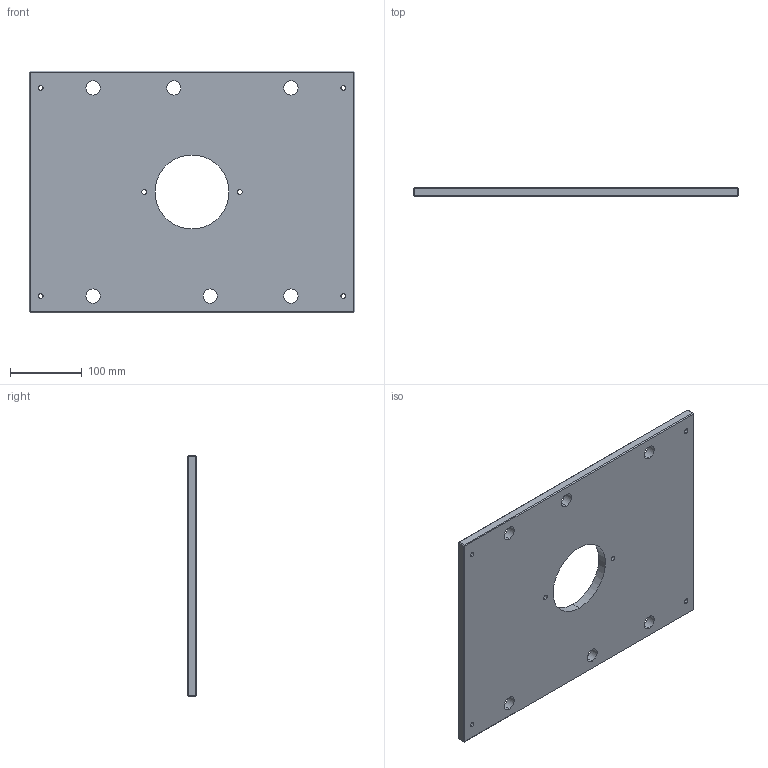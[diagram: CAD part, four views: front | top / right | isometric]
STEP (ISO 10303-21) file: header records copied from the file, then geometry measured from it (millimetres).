
FILE_DESCRIPTION (( 'STEP AP214' ), '1' );
FILE_NAME ('ME-0619-CH-1318-A.STEP', '2020-02-12T12:30:20', ( '' ), ( '' ), 'SwSTEP 2.0', 'SolidWorks 2018', '' );
FILE_SCHEMA (( 'AUTOMOTIVE_DESIGN' ));
Length unit declared in the file: inch
Products named in the file (1): ME-0619-CH-1318-A
Bounding box: 454.02 x 12.7 x 336.55 mm (x, y, z)
Volume: 1804214.1 mm3; surface area: 312765.5 mm2
Topology: 1 solids, 1 shells, 64 faces, 150 edges, 88 vertices
Faces by surface type: cylinder 26, plane 26, cone 12
Entity records: 1902 total; most frequent: DIRECTION 344, CARTESIAN_POINT 303, ORIENTED_EDGE 300, EDGE_CURVE 150, AXIS2_PLACEMENT_3D 129, EDGE_LOOP 90, VERTEX_POINT 88, VECTOR 86
